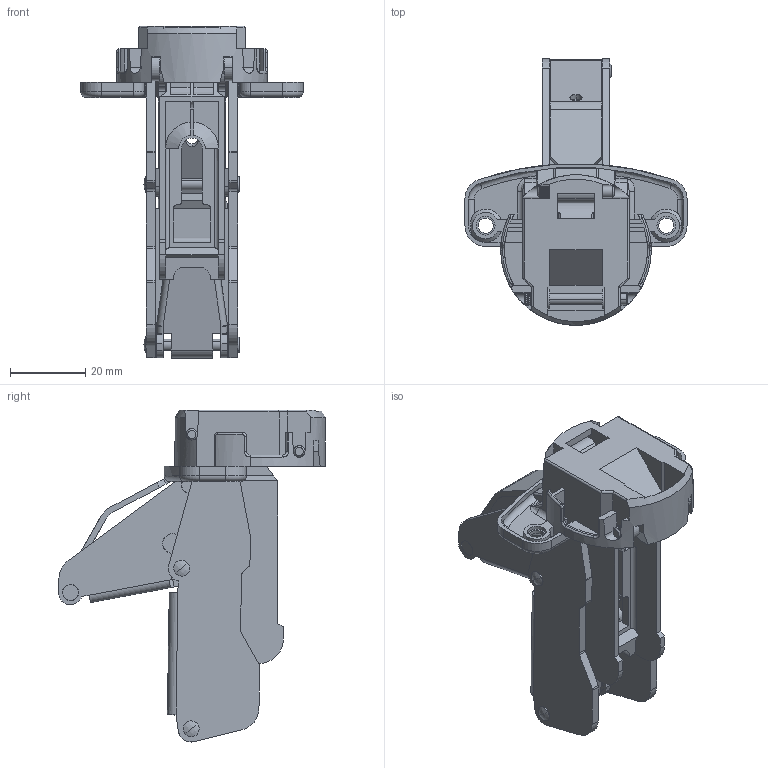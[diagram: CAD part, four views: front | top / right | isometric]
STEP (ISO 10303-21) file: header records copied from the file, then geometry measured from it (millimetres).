
FILE_DESCRIPTION (( 'STEP AP203' ), '1' );
FILE_NAME ('H160_34_18_0.STEP', '2013-05-30T12:12:42', ( '' ), ( '' ), 'SwSTEP 2.0', 'SolidWorks 2012', '' );
FILE_SCHEMA (( 'CONFIG_CONTROL_DESIGN' ));
Length unit declared in the file: millimetre
Products named in the file (8): H160_34_18_0; H160_34_18_000; H160_socket; H160_arm_SJ; H160_arm_SL_23180; H160_arm_GD; H160_arm_CT; H160_body_18
Assembly tree (7 placements, depth 3):
  H160_34_18_0
    H160_34_18_000
      H160_body_18
      H160_arm_CT
      H160_arm_GD
      H160_arm_SL_23180
      H160_arm_SJ
      H160_socket
Bounding box: 59 x 70.9 x 88.16 mm (x, y, z)
Volume: 27421.3 mm3; surface area: 34275.4 mm2
Topology: 6 solids, 8 shells, 1080 faces, 3034 edges, 1944 vertices
Faces by surface type: plane 587, cylinder 373, cone 50, torus 46, bspline 18, sphere 6
Entity records: 36630 total; most frequent: CARTESIAN_POINT 7661, ORIENTED_EDGE 6064, DIRECTION 5843, EDGE_CURVE 3032, AXIS2_PLACEMENT_3D 1978, VERTEX_POINT 1944, VECTOR 1887, LINE 1887
